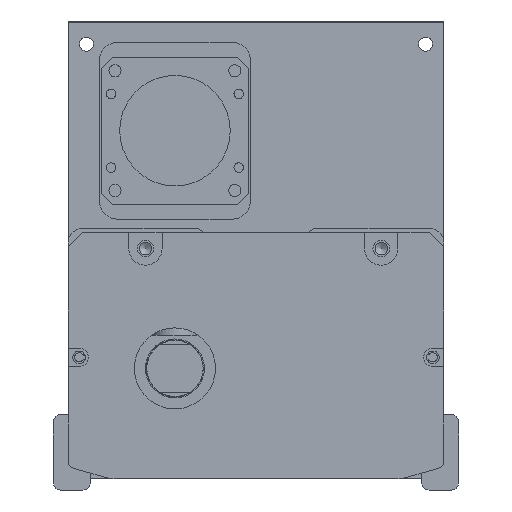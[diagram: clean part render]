
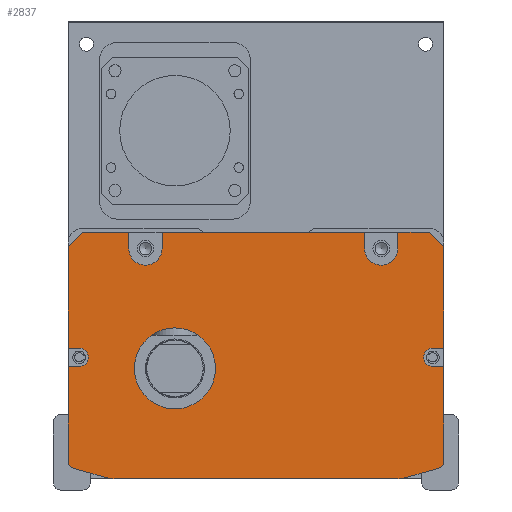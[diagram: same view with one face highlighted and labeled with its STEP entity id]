
A CAD part, front view. The second image highlights one B-rep face of the part: STEP entity #2837.
In plain terms, the highlighted planar face has unit normal (0, -1, 0).
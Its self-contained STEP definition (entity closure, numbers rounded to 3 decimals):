
#943=LINE('',#18069,#1709);
#944=LINE('',#18072,#1710);
#945=LINE('',#18074,#1711);
#946=LINE('',#18076,#1712);
#947=LINE('',#18080,#1713);
#948=LINE('',#18082,#1714);
#949=LINE('',#18084,#1715);
#950=LINE('',#18088,#1716);
#951=LINE('',#18090,#1717);
#952=LINE('',#18092,#1718);
#953=LINE('',#18094,#1719);
#954=LINE('',#18096,#1720);
#955=LINE('',#18100,#1721);
#956=LINE('',#18102,#1722);
#957=LINE('',#18106,#1723);
#958=LINE('',#18110,#1724);
#959=LINE('',#18114,#1725);
#960=LINE('',#18118,#1726);
#961=LINE('',#18120,#1727);
#962=LINE('',#18124,#1728);
#1709=VECTOR('',#14305,1.);
#1710=VECTOR('',#14306,1.);
#1711=VECTOR('',#14307,1.);
#1712=VECTOR('',#14308,1.);
#1713=VECTOR('',#14311,1.);
#1714=VECTOR('',#14312,1.);
#1715=VECTOR('',#14313,1.);
#1716=VECTOR('',#14316,1.);
#1717=VECTOR('',#14317,1.);
#1718=VECTOR('',#14318,1.);
#1719=VECTOR('',#14319,1.);
#1720=VECTOR('',#14320,1.);
#1721=VECTOR('',#14323,1.);
#1722=VECTOR('',#14324,1.);
#1723=VECTOR('',#14327,1.);
#1724=VECTOR('',#14330,1.);
#1725=VECTOR('',#14333,1.);
#1726=VECTOR('',#14336,1.);
#1727=VECTOR('',#14337,1.);
#1728=VECTOR('',#14340,1.);
#2837=ADVANCED_FACE('',(#3890,#3891),#3594,.F.);
#3594=PLANE('',#12678);
#3890=FACE_BOUND('',#4500,.T.);
#3891=FACE_BOUND('',#4501,.T.);
#4500=EDGE_LOOP('',(#5713,#5714,#5715,#5716,#5717,#5718,#5719,#5720,#5721,
#5722,#5723,#5724,#5725,#5726,#5727,#5728,#5729,#5730,#5731,#5732,#5733,
#5734,#5735,#5736,#5737,#5738,#5739,#5740));
#4501=EDGE_LOOP('',(#5741));
#5713=ORIENTED_EDGE('',*,*,#10318,.T.);
#5714=ORIENTED_EDGE('',*,*,#10319,.T.);
#5715=ORIENTED_EDGE('',*,*,#10320,.T.);
#5716=ORIENTED_EDGE('',*,*,#10321,.F.);
#5717=ORIENTED_EDGE('',*,*,#10322,.T.);
#5718=ORIENTED_EDGE('',*,*,#10323,.F.);
#5719=ORIENTED_EDGE('',*,*,#10324,.T.);
#5720=ORIENTED_EDGE('',*,*,#10325,.F.);
#5721=ORIENTED_EDGE('',*,*,#10326,.T.);
#5722=ORIENTED_EDGE('',*,*,#10327,.F.);
#5723=ORIENTED_EDGE('',*,*,#10328,.T.);
#5724=ORIENTED_EDGE('',*,*,#10329,.T.);
#5725=ORIENTED_EDGE('',*,*,#10330,.T.);
#5726=ORIENTED_EDGE('',*,*,#10331,.T.);
#5727=ORIENTED_EDGE('',*,*,#10332,.T.);
#5728=ORIENTED_EDGE('',*,*,#10333,.T.);
#5729=ORIENTED_EDGE('',*,*,#10334,.T.);
#5730=ORIENTED_EDGE('',*,*,#10335,.T.);
#5731=ORIENTED_EDGE('',*,*,#10336,.T.);
#5732=ORIENTED_EDGE('',*,*,#10337,.T.);
#5733=ORIENTED_EDGE('',*,*,#10338,.T.);
#5734=ORIENTED_EDGE('',*,*,#10339,.T.);
#5735=ORIENTED_EDGE('',*,*,#10340,.T.);
#5736=ORIENTED_EDGE('',*,*,#10341,.T.);
#5737=ORIENTED_EDGE('',*,*,#10342,.T.);
#5738=ORIENTED_EDGE('',*,*,#10343,.T.);
#5739=ORIENTED_EDGE('',*,*,#10344,.T.);
#5740=ORIENTED_EDGE('',*,*,#10345,.T.);
#5741=ORIENTED_EDGE('',*,*,#10346,.T.);
#9110=VERTEX_POINT('',#18070);
#9111=VERTEX_POINT('',#18071);
#9112=VERTEX_POINT('',#18073);
#9113=VERTEX_POINT('',#18075);
#9114=VERTEX_POINT('',#18077);
#9115=VERTEX_POINT('',#18079);
#9116=VERTEX_POINT('',#18081);
#9117=VERTEX_POINT('',#18083);
#9118=VERTEX_POINT('',#18085);
#9119=VERTEX_POINT('',#18087);
#9120=VERTEX_POINT('',#18089);
#9121=VERTEX_POINT('',#18091);
#9122=VERTEX_POINT('',#18093);
#9123=VERTEX_POINT('',#18095);
#9124=VERTEX_POINT('',#18097);
#9125=VERTEX_POINT('',#18099);
#9126=VERTEX_POINT('',#18101);
#9127=VERTEX_POINT('',#18103);
#9128=VERTEX_POINT('',#18105);
#9129=VERTEX_POINT('',#18107);
#9130=VERTEX_POINT('',#18109);
#9131=VERTEX_POINT('',#18111);
#9132=VERTEX_POINT('',#18113);
#9133=VERTEX_POINT('',#18115);
#9134=VERTEX_POINT('',#18117);
#9135=VERTEX_POINT('',#18119);
#9136=VERTEX_POINT('',#18121);
#9137=VERTEX_POINT('',#18123);
#9138=VERTEX_POINT('',#18126);
#10318=EDGE_CURVE('',#9110,#9111,#943,.T.);
#10319=EDGE_CURVE('',#9111,#9112,#944,.T.);
#10320=EDGE_CURVE('',#9112,#9113,#945,.T.);
#10321=EDGE_CURVE('',#9114,#9113,#946,.T.);
#10322=EDGE_CURVE('',#9114,#9115,#11934,.T.);
#10323=EDGE_CURVE('',#9116,#9115,#947,.T.);
#10324=EDGE_CURVE('',#9116,#9117,#948,.T.);
#10325=EDGE_CURVE('',#9118,#9117,#949,.T.);
#10326=EDGE_CURVE('',#9118,#9119,#11935,.T.);
#10327=EDGE_CURVE('',#9120,#9119,#950,.T.);
#10328=EDGE_CURVE('',#9120,#9121,#951,.T.);
#10329=EDGE_CURVE('',#9121,#9122,#952,.T.);
#10330=EDGE_CURVE('',#9122,#9123,#953,.T.);
#10331=EDGE_CURVE('',#9123,#9124,#954,.T.);
#10332=EDGE_CURVE('',#9124,#9125,#11936,.T.);
#10333=EDGE_CURVE('',#9125,#9126,#955,.T.);
#10334=EDGE_CURVE('',#9126,#9127,#956,.T.);
#10335=EDGE_CURVE('',#9127,#9128,#11937,.T.);
#10336=EDGE_CURVE('',#9128,#9129,#957,.T.);
#10337=EDGE_CURVE('',#9129,#9130,#11938,.T.);
#10338=EDGE_CURVE('',#9130,#9131,#958,.T.);
#10339=EDGE_CURVE('',#9131,#9132,#11939,.T.);
#10340=EDGE_CURVE('',#9132,#9133,#959,.T.);
#10341=EDGE_CURVE('',#9133,#9134,#11940,.T.);
#10342=EDGE_CURVE('',#9134,#9135,#960,.T.);
#10343=EDGE_CURVE('',#9135,#9136,#961,.T.);
#10344=EDGE_CURVE('',#9136,#9137,#11941,.T.);
#10345=EDGE_CURVE('',#9137,#9110,#962,.T.);
#10346=EDGE_CURVE('',#9138,#9138,#11942,.T.);
#11934=CIRCLE('',#12669,4.5);
#11935=CIRCLE('',#12670,4.5);
#11936=CIRCLE('',#12671,2.5);
#11937=CIRCLE('',#12672,2.);
#11938=CIRCLE('',#12673,10.);
#11939=CIRCLE('',#12674,10.);
#11940=CIRCLE('',#12675,2.);
#11941=CIRCLE('',#12676,2.5);
#11942=CIRCLE('',#12677,11.);
#12669=AXIS2_PLACEMENT_3D('',#18078,#14309,#14310);
#12670=AXIS2_PLACEMENT_3D('',#18086,#14314,#14315);
#12671=AXIS2_PLACEMENT_3D('',#18098,#14321,#14322);
#12672=AXIS2_PLACEMENT_3D('',#18104,#14325,#14326);
#12673=AXIS2_PLACEMENT_3D('',#18108,#14328,#14329);
#12674=AXIS2_PLACEMENT_3D('',#18112,#14331,#14332);
#12675=AXIS2_PLACEMENT_3D('',#18116,#14334,#14335);
#12676=AXIS2_PLACEMENT_3D('',#18122,#14338,#14339);
#12677=AXIS2_PLACEMENT_3D('',#18125,#14341,#14342);
#12678=AXIS2_PLACEMENT_3D('',#18127,#14343,#14344);
#14305=DIRECTION('',(0.,0.,1.));
#14306=DIRECTION('',(-0.707,0.,0.707));
#14307=DIRECTION('',(-1.,0.,0.));
#14308=DIRECTION('',(0.,0.,1.));
#14309=DIRECTION('',(0.,1.,0.));
#14310=DIRECTION('',(0.,0.,1.));
#14311=DIRECTION('',(0.,0.,-1.));
#14312=DIRECTION('',(-1.,0.,0.));
#14313=DIRECTION('',(0.,0.,1.));
#14314=DIRECTION('',(0.,1.,0.));
#14315=DIRECTION('',(0.,0.,1.));
#14316=DIRECTION('',(0.,0.,-1.));
#14317=DIRECTION('',(-1.,0.,0.));
#14318=DIRECTION('',(-0.707,0.,-0.707));
#14319=DIRECTION('',(0.,0.,-1.));
#14320=DIRECTION('',(1.,0.,0.));
#14321=DIRECTION('',(0.,1.,0.));
#14322=DIRECTION('',(0.,0.,1.));
#14323=DIRECTION('',(-1.,0.,0.));
#14324=DIRECTION('',(0.,0.,-1.));
#14325=DIRECTION('',(0.,-1.,0.));
#14326=DIRECTION('',(0.,0.,1.));
#14327=DIRECTION('',(0.963,0.,-0.269));
#14328=DIRECTION('',(0.,-1.,0.));
#14329=DIRECTION('',(0.,0.,1.));
#14330=DIRECTION('',(1.,0.,0.));
#14331=DIRECTION('',(0.,-1.,0.));
#14332=DIRECTION('',(0.,0.,-1.));
#14333=DIRECTION('',(0.963,0.,0.269));
#14334=DIRECTION('',(0.,-1.,0.));
#14335=DIRECTION('',(0.,0.,-1.));
#14336=DIRECTION('',(0.,0.,1.));
#14337=DIRECTION('',(-1.,0.,0.));
#14338=DIRECTION('',(0.,1.,0.));
#14339=DIRECTION('',(0.,0.,1.));
#14340=DIRECTION('',(1.,0.,0.));
#14341=DIRECTION('',(0.,1.,0.));
#14342=DIRECTION('',(0.,0.,1.));
#14343=DIRECTION('',(0.,1.,0.));
#14344=DIRECTION('',(-1.,0.,0.));
#18069=CARTESIAN_POINT('',(47.808,-17.5,-1.));
#18070=CARTESIAN_POINT('',(47.808,-17.5,-32.5));
#18071=CARTESIAN_POINT('',(47.808,-17.5,-5.));
#18072=CARTESIAN_POINT('',(43.808,-17.5,-1.));
#18073=CARTESIAN_POINT('',(43.808,-17.5,-1.));
#18074=CARTESIAN_POINT('',(-3.192,-17.5,-1.));
#18075=CARTESIAN_POINT('',(35.308,-17.5,-1.));
#18076=CARTESIAN_POINT('',(35.308,-17.5,-1.));
#18077=CARTESIAN_POINT('',(35.308,-17.5,-5.5));
#18078=CARTESIAN_POINT('',(30.808,-17.5,-5.5));
#18079=CARTESIAN_POINT('',(26.308,-17.5,-5.5));
#18080=CARTESIAN_POINT('',(26.308,-17.5,-1.));
#18081=CARTESIAN_POINT('',(26.308,-17.5,-1.));
#18082=CARTESIAN_POINT('',(-54.192,-17.5,-1.));
#18083=CARTESIAN_POINT('',(-28.692,-17.5,-1.));
#18084=CARTESIAN_POINT('',(-28.692,-17.5,-3.5));
#18085=CARTESIAN_POINT('',(-28.692,-17.5,-5.5));
#18086=CARTESIAN_POINT('',(-33.192,-17.5,-5.5));
#18087=CARTESIAN_POINT('',(-37.692,-17.5,-5.5));
#18088=CARTESIAN_POINT('',(-37.692,-17.5,-1.));
#18089=CARTESIAN_POINT('',(-37.692,-17.5,-1.));
#18090=CARTESIAN_POINT('',(-54.192,-17.5,-1.));
#18091=CARTESIAN_POINT('',(-50.192,-17.5,-1.));
#18092=CARTESIAN_POINT('',(-54.192,-17.5,-5.));
#18093=CARTESIAN_POINT('',(-54.192,-17.5,-5.));
#18094=CARTESIAN_POINT('',(-54.192,-17.5,-62.));
#18095=CARTESIAN_POINT('',(-54.192,-17.5,-32.5));
#18096=CARTESIAN_POINT('',(-3.192,-17.5,-32.5));
#18097=CARTESIAN_POINT('',(-51.192,-17.5,-32.5));
#18098=CARTESIAN_POINT('',(-51.192,-17.5,-35.));
#18099=CARTESIAN_POINT('',(-51.192,-17.5,-37.5));
#18100=CARTESIAN_POINT('',(-3.192,-17.5,-37.5));
#18101=CARTESIAN_POINT('',(-54.192,-17.5,-37.5));
#18102=CARTESIAN_POINT('',(-54.192,-17.5,-62.));
#18103=CARTESIAN_POINT('',(-54.192,-17.5,-63.212));
#18104=CARTESIAN_POINT('',(-52.192,-17.5,-63.212));
#18105=CARTESIAN_POINT('',(-52.731,-17.5,-65.138));
#18106=CARTESIAN_POINT('',(-55.807,-17.5,-64.279));
#18107=CARTESIAN_POINT('',(-43.809,-17.5,-67.631));
#18108=CARTESIAN_POINT('',(-41.118,-17.5,-58.));
#18109=CARTESIAN_POINT('',(-41.118,-17.5,-68.));
#18110=CARTESIAN_POINT('',(-54.692,-17.5,-68.));
#18111=CARTESIAN_POINT('',(34.733,-17.5,-68.));
#18112=CARTESIAN_POINT('',(34.733,-17.5,-58.));
#18113=CARTESIAN_POINT('',(37.424,-17.5,-67.631));
#18114=CARTESIAN_POINT('',(49.422,-17.5,-64.279));
#18115=CARTESIAN_POINT('',(46.346,-17.5,-65.138));
#18116=CARTESIAN_POINT('',(45.808,-17.5,-63.212));
#18117=CARTESIAN_POINT('',(47.808,-17.5,-63.212));
#18118=CARTESIAN_POINT('',(47.808,-17.5,-1.));
#18119=CARTESIAN_POINT('',(47.808,-17.5,-37.5));
#18120=CARTESIAN_POINT('',(-3.192,-17.5,-37.5));
#18121=CARTESIAN_POINT('',(44.808,-17.5,-37.5));
#18122=CARTESIAN_POINT('',(44.808,-17.5,-35.));
#18123=CARTESIAN_POINT('',(44.808,-17.5,-32.5));
#18124=CARTESIAN_POINT('',(-3.192,-17.5,-32.5));
#18125=CARTESIAN_POINT('',(-25.192,-17.5,-38.));
#18126=CARTESIAN_POINT('',(-25.192,-17.5,-27.));
#18127=CARTESIAN_POINT('',(-3.192,-17.5,-1.));
